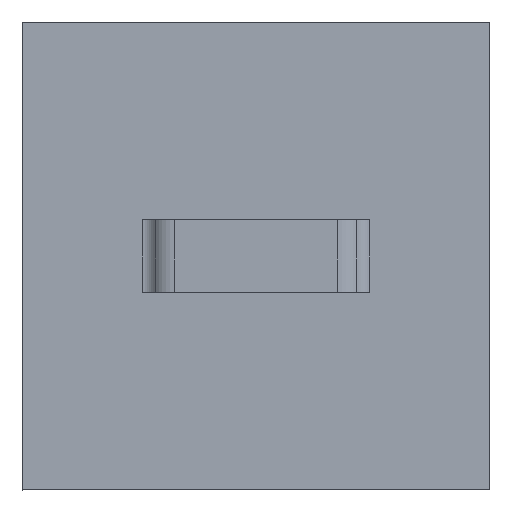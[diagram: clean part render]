
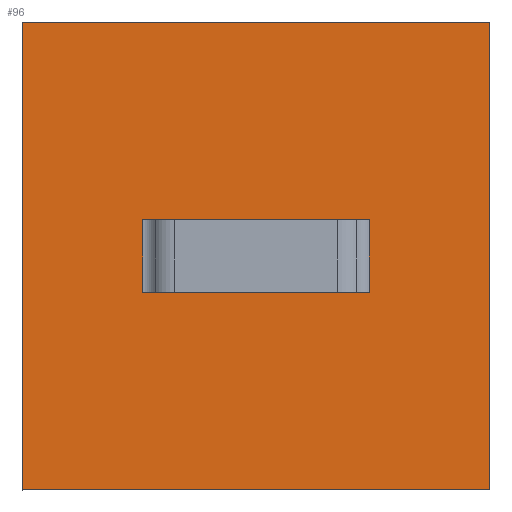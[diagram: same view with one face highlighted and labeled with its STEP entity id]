
A CAD part, top view. The second image highlights one B-rep face of the part: STEP entity #96.
In plain terms, the highlighted planar face has unit normal (0, 0, 1).
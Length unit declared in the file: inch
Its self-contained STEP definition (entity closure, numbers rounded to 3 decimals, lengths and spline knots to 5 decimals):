
#96=ADVANCED_FACE('',(#143,#144),#145,.F.);
#143=FACE_BOUND('',#193,.T.);
#144=FACE_OUTER_BOUND('',#194,.T.);
#145=PLANE('',#195);
#193=EDGE_LOOP('',(#367,#368,#369,#370,#371,#372,#373,#374));
#194=EDGE_LOOP('',(#375,#376,#377,#378));
#195=AXIS2_PLACEMENT_3D('',#379,#380,#381);
#367=ORIENTED_EDGE('',*,*,#473,.F.);
#368=ORIENTED_EDGE('',*,*,#429,.T.);
#369=ORIENTED_EDGE('',*,*,#463,.T.);
#370=ORIENTED_EDGE('',*,*,#462,.F.);
#371=ORIENTED_EDGE('',*,*,#464,.F.);
#372=ORIENTED_EDGE('',*,*,#448,.T.);
#373=ORIENTED_EDGE('',*,*,#474,.F.);
#374=ORIENTED_EDGE('',*,*,#475,.T.);
#375=ORIENTED_EDGE('',*,*,#468,.F.);
#376=ORIENTED_EDGE('',*,*,#466,.T.);
#377=ORIENTED_EDGE('',*,*,#470,.T.);
#378=ORIENTED_EDGE('',*,*,#472,.F.);
#379=CARTESIAN_POINT('',(-2.25,17.897,0.1));
#380=DIRECTION('',(0.,0.,-1.0));
#381=DIRECTION('',(0.,-1.0,0.));
#429=EDGE_CURVE('',#515,#513,#516,.T.);
#448=EDGE_CURVE('',#547,#545,#548,.T.);
#462=EDGE_CURVE('',#556,#567,#570,.T.);
#463=EDGE_CURVE('',#513,#567,#571,.T.);
#464=EDGE_CURVE('',#547,#556,#572,.T.);
#466=EDGE_CURVE('',#575,#573,#576,.T.);
#468=EDGE_CURVE('',#575,#578,#579,.T.);
#470=EDGE_CURVE('',#573,#581,#582,.T.);
#472=EDGE_CURVE('',#578,#581,#584,.T.);
#473=EDGE_CURVE('',#515,#564,#585,.T.);
#474=EDGE_CURVE('',#550,#545,#586,.T.);
#475=EDGE_CURVE('',#550,#564,#587,.T.);
#513=VERTEX_POINT('',#641);
#515=VERTEX_POINT('',#643);
#516=LINE('',#644,#645);
#545=VERTEX_POINT('',#686);
#547=VERTEX_POINT('',#688);
#548=LINE('',#689,#690);
#550=VERTEX_POINT('',#692);
#556=VERTEX_POINT('',#699);
#564=VERTEX_POINT('',#710);
#567=VERTEX_POINT('',#713);
#570=LINE('',#716,#717);
#571=LINE('',#718,#719);
#572=LINE('',#720,#721);
#573=VERTEX_POINT('',#722);
#575=VERTEX_POINT('',#725);
#576=LINE('',#726,#727);
#578=VERTEX_POINT('',#730);
#579=LINE('',#731,#732);
#581=VERTEX_POINT('',#735);
#582=LINE('',#736,#737);
#584=LINE('',#740,#741);
#585=LINE('',#742,#743);
#586=LINE('',#744,#745);
#587=LINE('',#746,#747);
#641=CARTESIAN_POINT('',(-1.60889,9.104,0.1));
#643=CARTESIAN_POINT('',(-1.60889,8.793,0.1));
#644=CARTESIAN_POINT('',(-1.60889,8.803,0.1));
#645=VECTOR('',#779,0.291);
#686=CARTESIAN_POINT('',(-0.64111,8.793,0.1));
#688=CARTESIAN_POINT('',(-0.64111,9.104,0.1));
#689=CARTESIAN_POINT('',(-0.64111,9.094,0.1));
#690=VECTOR('',#810,0.291);
#692=CARTESIAN_POINT('',(-0.73852,8.793,0.1));
#699=CARTESIAN_POINT('',(-0.73852,9.104,0.1));
#710=CARTESIAN_POINT('',(-1.51148,8.793,0.1));
#713=CARTESIAN_POINT('',(-1.51148,9.104,0.1));
#716=CARTESIAN_POINT('',(-1.281,9.104,0.1));
#717=VECTOR('',#842,0.32789);
#718=CARTESIAN_POINT('',(-1.49594,9.104,0.1));
#719=VECTOR('',#843,1.0);
#720=CARTESIAN_POINT('',(-1.281,9.104,0.1));
#721=VECTOR('',#844,0.32789);
#722=CARTESIAN_POINT('',(-0.125,7.9485,0.1));
#725=CARTESIAN_POINT('',(-2.125,7.9485,0.1));
#726=CARTESIAN_POINT('',(-61080.9992,7.9485,0.1));
#727=VECTOR('',#846,1.0);
#730=CARTESIAN_POINT('',(-2.125,9.9485,0.1));
#731=CARTESIAN_POINT('',(-2.125,-40279.85927,0.1));
#732=VECTOR('',#848,1.0);
#735=CARTESIAN_POINT('',(-0.125,9.9485,0.1));
#736=CARTESIAN_POINT('',(-0.125,11622.36942,0.1));
#737=VECTOR('',#850,1.0);
#740=CARTESIAN_POINT('',(-61080.9992,9.9485,0.1));
#741=VECTOR('',#852,1.0);
#742=CARTESIAN_POINT('',(-2.23125,8.793,0.1));
#743=VECTOR('',#853,1.0);
#744=CARTESIAN_POINT('',(-2.23125,8.793,0.1));
#745=VECTOR('',#854,1.0);
#746=CARTESIAN_POINT('',(-1.281,8.793,0.1));
#747=VECTOR('',#855,0.32789);
#779=DIRECTION('',(0.,1.0,0.));
#810=DIRECTION('',(0.,-1.0,0.));
#842=DIRECTION('',(-1.0,0.,0.));
#843=DIRECTION('',(1.0,0.,0.));
#844=DIRECTION('',(-1.0,0.,0.));
#846=DIRECTION('',(1.0,0.0,0.));
#848=DIRECTION('',(0.,1.0,0.));
#850=DIRECTION('',(0.,1.0,0.));
#852=DIRECTION('',(1.0,0.0,0.));
#853=DIRECTION('',(1.0,0.,0.));
#854=DIRECTION('',(1.0,0.,0.));
#855=DIRECTION('',(-1.0,0.,0.));
